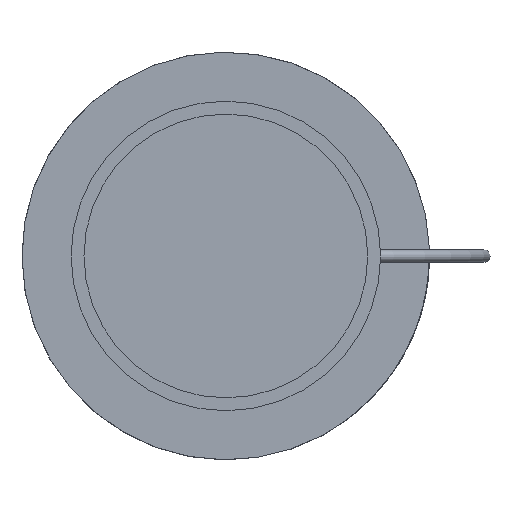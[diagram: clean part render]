
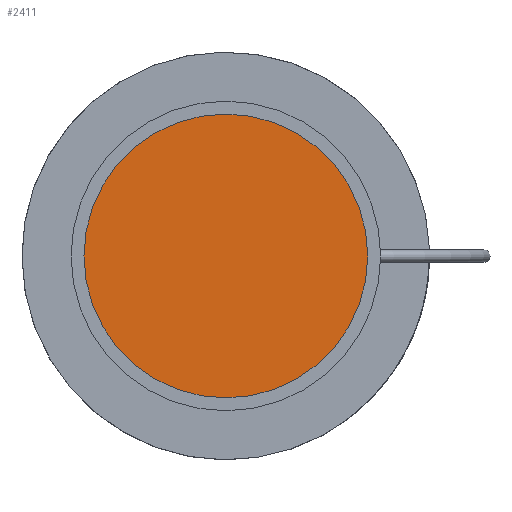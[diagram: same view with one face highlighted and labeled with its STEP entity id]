
A CAD part, front view. The second image highlights one B-rep face of the part: STEP entity #2411.
In plain terms, the highlighted planar face has unit normal (0, -1, 0).
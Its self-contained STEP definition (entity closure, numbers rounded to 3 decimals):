
#253 = DIRECTION ( 'NONE',  ( 0., 0., 1. ) ) ;
#473 = DIRECTION ( 'NONE',  ( 0., 1., 0. ) ) ;
#582 = AXIS2_PLACEMENT_3D ( 'NONE', #630, #1786, #253 ) ;
#630 = CARTESIAN_POINT ( 'NONE',  ( 0., 0., 0. ) ) ;
#783 = PLANE ( 'NONE',  #582 ) ;
#1053 = CIRCLE ( 'NONE', #2376, 137.5 ) ;
#1061 = CARTESIAN_POINT ( 'NONE',  ( 0., 0., 137.5 ) ) ;
#1067 = ORIENTED_EDGE ( 'NONE', *, *, #1425, .F. ) ;
#1425 = EDGE_CURVE ( 'NONE', #2296, #2296, #1053, .T. ) ;
#1698 = DIRECTION ( 'NONE',  ( 0., 0., 1. ) ) ;
#1786 = DIRECTION ( 'NONE',  ( 0., 1., 0. ) ) ;
#1978 = CARTESIAN_POINT ( 'NONE',  ( 0., 0., 0. ) ) ;
#2154 = FACE_OUTER_BOUND ( 'NONE', #2186, .T. ) ;
#2186 = EDGE_LOOP ( 'NONE', ( #1067 ) ) ;
#2296 = VERTEX_POINT ( 'NONE', #1061 ) ;
#2376 = AXIS2_PLACEMENT_3D ( 'NONE', #1978, #473, #1698 ) ;
#2411 = ADVANCED_FACE ( 'NONE', ( #2154 ), #783, .F. ) ;
